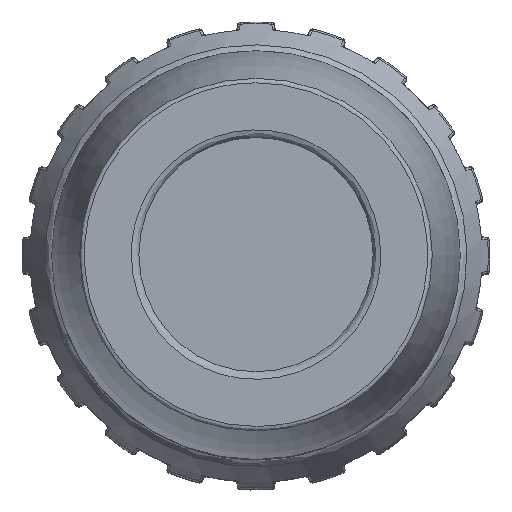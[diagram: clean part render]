
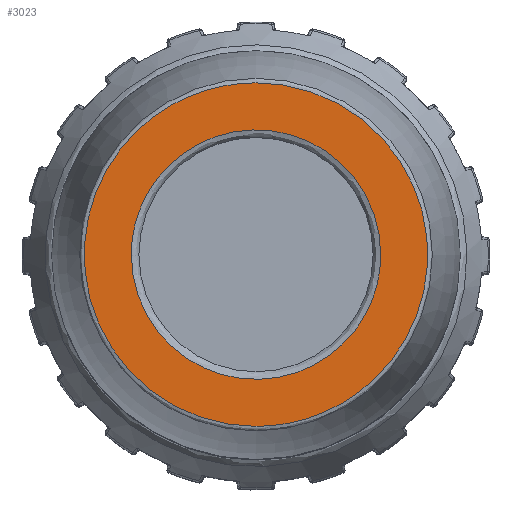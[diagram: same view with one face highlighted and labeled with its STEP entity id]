
A CAD part, top view. The second image highlights one B-rep face of the part: STEP entity #3023.
In plain terms, the highlighted planar face has unit normal (0, 0, 1).
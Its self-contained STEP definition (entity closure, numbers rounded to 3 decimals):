
#115 = ORIENTED_EDGE ( 'NONE', *, *, #10445, .F. ) ;
#205 = CARTESIAN_POINT ( 'NONE',  ( -8., 0., 33.2 ) ) ;
#1327 = DIRECTION ( 'NONE',  ( -1., 0., 0. ) ) ;
#1460 =( BOUNDED_CURVE ( )  B_SPLINE_CURVE ( 3, ( #22515, #22420, #18117, #20484 ),
 .UNSPECIFIED., .F., .F. ) 
 B_SPLINE_CURVE_WITH_KNOTS ( ( 4, 4 ),
 ( 0., 1. ),
 .UNSPECIFIED. ) 
 CURVE ( )  GEOMETRIC_REPRESENTATION_ITEM ( )  RATIONAL_B_SPLINE_CURVE ( ( 1., 0.333, 0.333, 1. ) ) 
 REPRESENTATION_ITEM ( '' )  );
#1622 = CARTESIAN_POINT ( 'NONE',  ( 8., 0., 33.2 ) ) ;
#1778 = EDGE_CURVE ( 'NONE', #25644, #14234, #18172, .T. ) ;
#2367 = EDGE_LOOP ( 'NONE', ( #115, #13587 ) ) ;
#3023 = ADVANCED_FACE ( 'NONE', ( #11348, #28080 ), #23440, .F. ) ;
#3357 = EDGE_CURVE ( 'NONE', #26459, #24888, #20506, .T. ) ;
#3681 = CARTESIAN_POINT ( 'NONE',  ( 8., 0., 33.2 ) ) ;
#3994 = EDGE_CURVE ( 'NONE', #14234, #25644, #5740, .T. ) ;
#5740 =( BOUNDED_CURVE ( )  B_SPLINE_CURVE ( 3, ( #205, #20569, #13654, #27190 ),
 .UNSPECIFIED., .F., .F. ) 
 B_SPLINE_CURVE_WITH_KNOTS ( ( 4, 4 ),
 ( 0., 1. ),
 .UNSPECIFIED. ) 
 CURVE ( )  GEOMETRIC_REPRESENTATION_ITEM ( )  RATIONAL_B_SPLINE_CURVE ( ( 1., 0.333, 0.333, 1. ) ) 
 REPRESENTATION_ITEM ( '' )  );
#5820 = ORIENTED_EDGE ( 'NONE', *, *, #3994, .F. ) ;
#5879 = CARTESIAN_POINT ( 'NONE',  ( -8., 0., 33.2 ) ) ;
#6266 = CARTESIAN_POINT ( 'NONE',  ( 8., 16., 33.2 ) ) ;
#6484 = CARTESIAN_POINT ( 'NONE',  ( -22.032, 11.016, 33.2 ) ) ;
#7540 = AXIS2_PLACEMENT_3D ( 'NONE', #25397, #10138, #1327 ) ;
#10138 = DIRECTION ( 'NONE',  ( 0., 0., -1. ) ) ;
#10445 = EDGE_CURVE ( 'NONE', #24888, #26459, #1460, .T. ) ;
#11348 = FACE_BOUND ( 'NONE', #27258, .T. ) ;
#13587 = ORIENTED_EDGE ( 'NONE', *, *, #3357, .F. ) ;
#13654 = CARTESIAN_POINT ( 'NONE',  ( 8., -16., 33.2 ) ) ;
#14234 = VERTEX_POINT ( 'NONE', #18424 ) ;
#15092 = ORIENTED_EDGE ( 'NONE', *, *, #1778, .F. ) ;
#15468 = CARTESIAN_POINT ( 'NONE',  ( -22.032, -11.016, 33.2 ) ) ;
#17537 = CARTESIAN_POINT ( 'NONE',  ( 0., -11.016, 33.2 ) ) ;
#18117 = CARTESIAN_POINT ( 'NONE',  ( 22.032, -11.016, 33.2 ) ) ;
#18172 =( BOUNDED_CURVE ( )  B_SPLINE_CURVE ( 3, ( #1622, #6266, #21407, #5879 ),
 .UNSPECIFIED., .F., .F. ) 
 B_SPLINE_CURVE_WITH_KNOTS ( ( 4, 4 ),
 ( 0., 1. ),
 .UNSPECIFIED. ) 
 CURVE ( )  GEOMETRIC_REPRESENTATION_ITEM ( )  RATIONAL_B_SPLINE_CURVE ( ( 1., 0.333, 0.333, 1. ) ) 
 REPRESENTATION_ITEM ( '' )  );
#18424 = CARTESIAN_POINT ( 'NONE',  ( -8., 0., 33.2 ) ) ;
#19572 = CARTESIAN_POINT ( 'NONE',  ( 0., 11.016, 33.2 ) ) ;
#20484 = CARTESIAN_POINT ( 'NONE',  ( 0., -11.016, 33.2 ) ) ;
#20506 =( BOUNDED_CURVE ( )  B_SPLINE_CURVE ( 3, ( #17537, #15468, #6484, #19572 ),
 .UNSPECIFIED., .F., .F. ) 
 B_SPLINE_CURVE_WITH_KNOTS ( ( 4, 4 ),
 ( 0., 1. ),
 .UNSPECIFIED. ) 
 CURVE ( )  GEOMETRIC_REPRESENTATION_ITEM ( )  RATIONAL_B_SPLINE_CURVE ( ( 1., 0.333, 0.333, 1. ) ) 
 REPRESENTATION_ITEM ( '' )  );
#20569 = CARTESIAN_POINT ( 'NONE',  ( -8., -16., 33.2 ) ) ;
#21407 = CARTESIAN_POINT ( 'NONE',  ( -8., 16., 33.2 ) ) ;
#22420 = CARTESIAN_POINT ( 'NONE',  ( 22.032, 11.016, 33.2 ) ) ;
#22515 = CARTESIAN_POINT ( 'NONE',  ( 0., 11.016, 33.2 ) ) ;
#23440 = PLANE ( 'NONE',  #7540 ) ;
#24888 = VERTEX_POINT ( 'NONE', #26647 ) ;
#25397 = CARTESIAN_POINT ( 'NONE',  ( 0., 0., 33.2 ) ) ;
#25644 = VERTEX_POINT ( 'NONE', #3681 ) ;
#26459 = VERTEX_POINT ( 'NONE', #27614 ) ;
#26647 = CARTESIAN_POINT ( 'NONE',  ( 0., 11.016, 33.2 ) ) ;
#27190 = CARTESIAN_POINT ( 'NONE',  ( 8., 0., 33.2 ) ) ;
#27258 = EDGE_LOOP ( 'NONE', ( #15092, #5820 ) ) ;
#27614 = CARTESIAN_POINT ( 'NONE',  ( 0., -11.016, 33.2 ) ) ;
#28080 = FACE_OUTER_BOUND ( 'NONE', #2367, .T. ) ;
